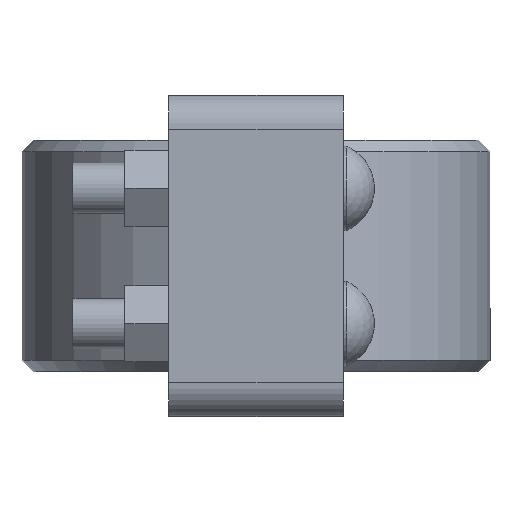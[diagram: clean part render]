
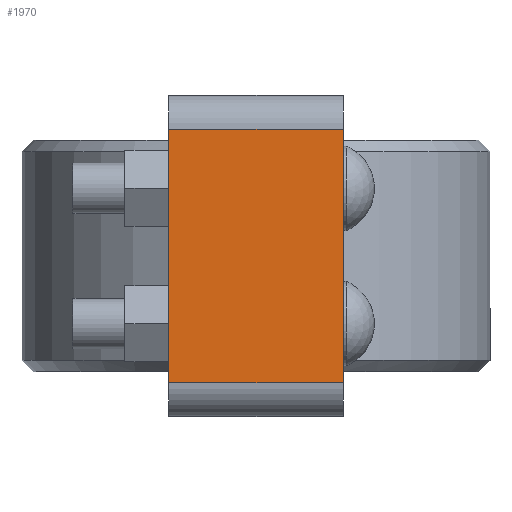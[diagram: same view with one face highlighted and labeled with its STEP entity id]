
A CAD part, left-side view. The second image highlights one B-rep face of the part: STEP entity #1970.
In plain terms, the highlighted planar face has unit normal (-1, 0, 0).
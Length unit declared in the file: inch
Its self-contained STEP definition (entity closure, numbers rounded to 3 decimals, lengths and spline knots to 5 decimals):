
#176=FACE_OUTER_BOUND('',#296,.T.);
#296=EDGE_LOOP('',(#1528,#1529,#1530,#1531));
#424=LINE('',#3128,#583);
#440=LINE('',#3193,#599);
#459=LINE('',#3236,#618);
#460=LINE('',#3238,#619);
#583=VECTOR('',#2522,0.3937);
#599=VECTOR('',#2562,0.3937);
#618=VECTOR('',#2605,0.3937);
#619=VECTOR('',#2608,0.3937);
#866=VERTEX_POINT('',#3125);
#867=VERTEX_POINT('',#3127);
#894=VERTEX_POINT('',#3190);
#895=VERTEX_POINT('',#3192);
#1082=EDGE_CURVE('',#866,#867,#424,.T.);
#1111=EDGE_CURVE('',#894,#895,#440,.T.);
#1133=EDGE_CURVE('',#894,#867,#459,.T.);
#1134=EDGE_CURVE('',#895,#866,#460,.T.);
#1528=ORIENTED_EDGE('',*,*,#1133,.T.);
#1529=ORIENTED_EDGE('',*,*,#1082,.F.);
#1530=ORIENTED_EDGE('',*,*,#1134,.F.);
#1531=ORIENTED_EDGE('',*,*,#1111,.F.);
#1783=PLANE('',#2162);
#1970=ADVANCED_FACE('',(#176),#1783,.T.);
#2162=AXIS2_PLACEMENT_3D('',#3237,#2606,#2607);
#2522=DIRECTION('',(0.,0.,-1.));
#2562=DIRECTION('',(0.,0.,1.));
#2605=DIRECTION('',(0.,-1.,0.));
#2606=DIRECTION('center_axis',(-1.,0.,0.));
#2607=DIRECTION('ref_axis',(0.,0.,-1.));
#2608=DIRECTION('',(0.,-1.,0.));
#3125=CARTESIAN_POINT('',(-8.19,-1.94,2.815));
#3127=CARTESIAN_POINT('',(-8.19,-1.94,-2.815));
#3128=CARTESIAN_POINT('',(-8.19,-1.94,2.815));
#3190=CARTESIAN_POINT('',(-8.19,1.94,-2.815));
#3192=CARTESIAN_POINT('',(-8.19,1.94,2.815));
#3193=CARTESIAN_POINT('',(-8.19,1.94,0.));
#3236=CARTESIAN_POINT('',(-8.19,0.,-2.815));
#3237=CARTESIAN_POINT('Origin',(-8.19,0.,2.815));
#3238=CARTESIAN_POINT('',(-8.19,0.,2.815));
